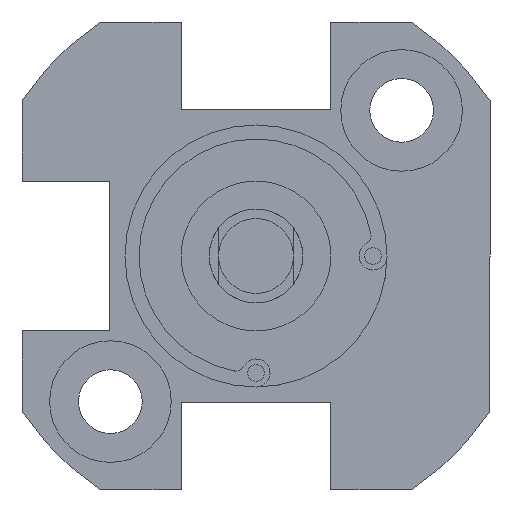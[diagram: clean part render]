
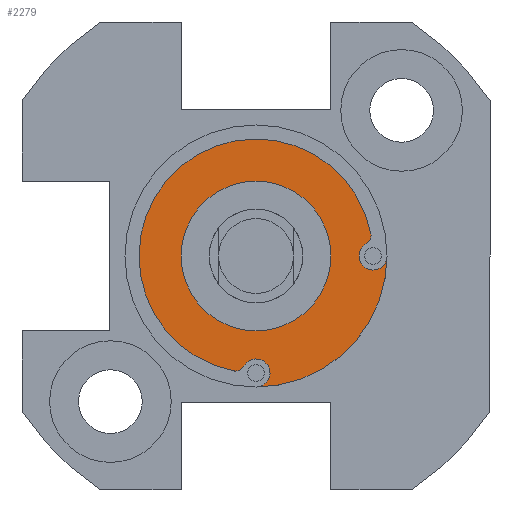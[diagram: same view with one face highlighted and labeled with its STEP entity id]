
A CAD part, front view. The second image highlights one B-rep face of the part: STEP entity #2279.
In plain terms, the highlighted planar face has unit normal (0, -1, 0).
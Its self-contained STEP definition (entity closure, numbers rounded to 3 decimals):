
#41 = EDGE_LOOP ( 'NONE', ( #2668, #457 ) ) ;
#94 = CARTESIAN_POINT ( 'NONE',  ( 6.25, -30., 0. ) ) ;
#114 = DIRECTION ( 'NONE',  ( 0., 0., 1. ) ) ;
#128 = DIRECTION ( 'NONE',  ( 0., 1., 0. ) ) ;
#173 = AXIS2_PLACEMENT_3D ( 'NONE', #1439, #1964, #1697 ) ;
#219 = CIRCLE ( 'NONE', #173, 0.75 ) ;
#238 = VERTEX_POINT ( 'NONE', #1579 ) ;
#394 = EDGE_CURVE ( 'NONE', #583, #1950, #770, .T. ) ;
#397 = CARTESIAN_POINT ( 'NONE',  ( 0., -30., 0. ) ) ;
#403 = VERTEX_POINT ( 'NONE', #1340 ) ;
#409 = CARTESIAN_POINT ( 'NONE',  ( 7., -30., 0. ) ) ;
#457 = ORIENTED_EDGE ( 'NONE', *, *, #2065, .T. ) ;
#561 = FACE_OUTER_BOUND ( 'NONE', #1849, .T. ) ;
#583 = VERTEX_POINT ( 'NONE', #409 ) ;
#638 = DIRECTION ( 'NONE',  ( 0., 0., 1. ) ) ;
#668 = DIRECTION ( 'NONE',  ( 0., 1., 0. ) ) ;
#674 = CIRCLE ( 'NONE', #2363, 6.25 ) ;
#707 = AXIS2_PLACEMENT_3D ( 'NONE', #3192, #1407, #1660 ) ;
#734 = EDGE_CURVE ( 'NONE', #1950, #238, #219, .T. ) ;
#741 = DIRECTION ( 'NONE',  ( 0., 0., 1. ) ) ;
#756 = AXIS2_PLACEMENT_3D ( 'NONE', #94, #3130, #2891 ) ;
#770 = CIRCLE ( 'NONE', #756, 0.75 ) ;
#776 = ORIENTED_EDGE ( 'NONE', *, *, #394, .T. ) ;
#933 = AXIS2_PLACEMENT_3D ( 'NONE', #2827, #3101, #1828 ) ;
#1040 = CIRCLE ( 'NONE', #1940, 7. ) ;
#1044 = CARTESIAN_POINT ( 'NONE',  ( 0., -30., 0. ) ) ;
#1068 = VERTEX_POINT ( 'NONE', #2626 ) ;
#1176 = DIRECTION ( 'NONE',  ( 0., -1., 0. ) ) ;
#1222 = EDGE_CURVE ( 'NONE', #403, #1068, #1862, .T. ) ;
#1324 = ORIENTED_EDGE ( 'NONE', *, *, #3114, .F. ) ;
#1340 = CARTESIAN_POINT ( 'NONE',  ( 0., -30., -4. ) ) ;
#1383 = PLANE ( 'NONE',  #1968 ) ;
#1396 = CARTESIAN_POINT ( 'NONE',  ( -0.656, -30., -5.887 ) ) ;
#1407 = DIRECTION ( 'NONE',  ( 0., -1., 0. ) ) ;
#1428 = EDGE_CURVE ( 'NONE', #583, #2269, #1040, .T. ) ;
#1439 = CARTESIAN_POINT ( 'NONE',  ( 6.25, -30., 0. ) ) ;
#1500 = CARTESIAN_POINT ( 'NONE',  ( -1.094, -30., -6.145 ) ) ;
#1503 = DIRECTION ( 'NONE',  ( 0., 1., 0. ) ) ;
#1519 = DIRECTION ( 'NONE',  ( 0., 0., 1. ) ) ;
#1528 = CARTESIAN_POINT ( 'NONE',  ( 0., -30., 0. ) ) ;
#1533 = CIRCLE ( 'NONE', #2130, 4. ) ;
#1579 = CARTESIAN_POINT ( 'NONE',  ( 5.887, -30., 0.656 ) ) ;
#1598 = AXIS2_PLACEMENT_3D ( 'NONE', #2405, #128, #114 ) ;
#1660 = DIRECTION ( 'NONE',  ( 0., 0., -1. ) ) ;
#1675 = VERTEX_POINT ( 'NONE', #1723 ) ;
#1697 = DIRECTION ( 'NONE',  ( 0., 0., 1. ) ) ;
#1723 = CARTESIAN_POINT ( 'NONE',  ( 6.136, -30., 1.189 ) ) ;
#1733 = CIRCLE ( 'NONE', #2944, 0.5 ) ;
#1743 = DIRECTION ( 'NONE',  ( 0., 0., -1. ) ) ;
#1764 = CARTESIAN_POINT ( 'NONE',  ( 0., -30., -6.25 ) ) ;
#1816 = EDGE_CURVE ( 'NONE', #2621, #2928, #2128, .T. ) ;
#1828 = DIRECTION ( 'NONE',  ( 0., 0., -1. ) ) ;
#1849 = EDGE_LOOP ( 'NONE', ( #776, #3232, #2716, #1324, #2703, #3142, #3267, #2346 ) ) ;
#1862 = CIRCLE ( 'NONE', #1598, 4. ) ;
#1918 = CARTESIAN_POINT ( 'NONE',  ( 0., -30., 0. ) ) ;
#1940 = AXIS2_PLACEMENT_3D ( 'NONE', #1044, #2831, #2365 ) ;
#1950 = VERTEX_POINT ( 'NONE', #2077 ) ;
#1964 = DIRECTION ( 'NONE',  ( 0., 1., 0. ) ) ;
#1968 = AXIS2_PLACEMENT_3D ( 'NONE', #1918, #2173, #2417 ) ;
#2044 = CIRCLE ( 'NONE', #707, 0.5 ) ;
#2065 = EDGE_CURVE ( 'NONE', #1068, #403, #1533, .T. ) ;
#2072 = CARTESIAN_POINT ( 'NONE',  ( -1.189, -30., -6.136 ) ) ;
#2077 = CARTESIAN_POINT ( 'NONE',  ( 6.25, -30., -0.75 ) ) ;
#2128 = CIRCLE ( 'NONE', #933, 0.5 ) ;
#2130 = AXIS2_PLACEMENT_3D ( 'NONE', #397, #668, #638 ) ;
#2173 = DIRECTION ( 'NONE',  ( 0., -1., 0. ) ) ;
#2269 = VERTEX_POINT ( 'NONE', #3173 ) ;
#2279 = ADVANCED_FACE ( 'NONE', ( #561, #2442 ), #1383, .T. ) ;
#2346 = ORIENTED_EDGE ( 'NONE', *, *, #1428, .F. ) ;
#2363 = AXIS2_PLACEMENT_3D ( 'NONE', #1528, #1503, #741 ) ;
#2365 = DIRECTION ( 'NONE',  ( 0., 0., 1. ) ) ;
#2405 = CARTESIAN_POINT ( 'NONE',  ( 0., -30., 0. ) ) ;
#2417 = DIRECTION ( 'NONE',  ( 0., 0., 1. ) ) ;
#2442 = FACE_BOUND ( 'NONE', #41, .T. ) ;
#2471 = CIRCLE ( 'NONE', #2655, 0.75 ) ;
#2488 = CARTESIAN_POINT ( 'NONE',  ( 5.645, -30., 1.094 ) ) ;
#2621 = VERTEX_POINT ( 'NONE', #1500 ) ;
#2626 = CARTESIAN_POINT ( 'NONE',  ( 0., -30., 4. ) ) ;
#2655 = AXIS2_PLACEMENT_3D ( 'NONE', #1764, #2788, #1519 ) ;
#2668 = ORIENTED_EDGE ( 'NONE', *, *, #1222, .T. ) ;
#2703 = ORIENTED_EDGE ( 'NONE', *, *, #2879, .T. ) ;
#2716 = ORIENTED_EDGE ( 'NONE', *, *, #3044, .T. ) ;
#2788 = DIRECTION ( 'NONE',  ( 0., 1., 0. ) ) ;
#2827 = CARTESIAN_POINT ( 'NONE',  ( -1.094, -30., -5.645 ) ) ;
#2831 = DIRECTION ( 'NONE',  ( 0., 1., 0. ) ) ;
#2879 = EDGE_CURVE ( 'NONE', #3212, #2621, #2044, .T. ) ;
#2891 = DIRECTION ( 'NONE',  ( 0., 0., 1. ) ) ;
#2928 = VERTEX_POINT ( 'NONE', #1396 ) ;
#2944 = AXIS2_PLACEMENT_3D ( 'NONE', #2488, #1176, #1743 ) ;
#3044 = EDGE_CURVE ( 'NONE', #238, #1675, #1733, .T. ) ;
#3101 = DIRECTION ( 'NONE',  ( 0., -1., 0. ) ) ;
#3114 = EDGE_CURVE ( 'NONE', #3212, #1675, #674, .T. ) ;
#3130 = DIRECTION ( 'NONE',  ( 0., 1., 0. ) ) ;
#3136 = EDGE_CURVE ( 'NONE', #2928, #2269, #2471, .T. ) ;
#3142 = ORIENTED_EDGE ( 'NONE', *, *, #1816, .T. ) ;
#3173 = CARTESIAN_POINT ( 'NONE',  ( 0., -30., -7. ) ) ;
#3192 = CARTESIAN_POINT ( 'NONE',  ( -1.094, -30., -5.645 ) ) ;
#3212 = VERTEX_POINT ( 'NONE', #2072 ) ;
#3232 = ORIENTED_EDGE ( 'NONE', *, *, #734, .T. ) ;
#3267 = ORIENTED_EDGE ( 'NONE', *, *, #3136, .T. ) ;
